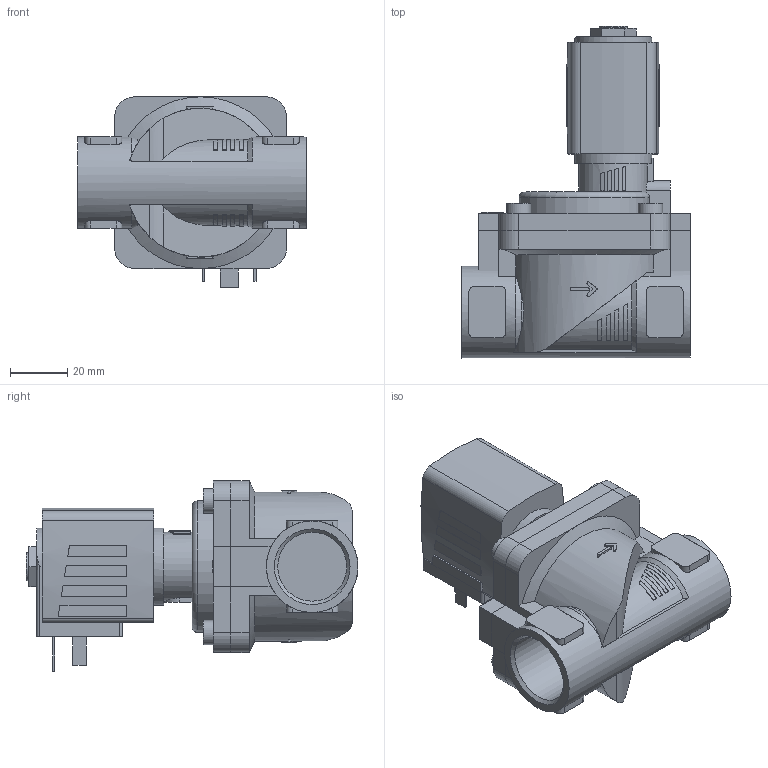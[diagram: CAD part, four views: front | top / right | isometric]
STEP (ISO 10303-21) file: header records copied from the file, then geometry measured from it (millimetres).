
FILE_DESCRIPTION(/* description */ ('STEP AP214'),/* implementation_level */ '2;1');
FILE_NAME(/* name */ '6281-370244-2_2-Way_Solenoid_Valve__Servo-assisted__General_Purpose',/* time_stamp */ '2024-08-20T21:13:12+02:00',/* author */ ('License CC BY-ND 4.0'),/* organization */ ('CADENAS'),/* preprocessor_version */ 'ST-DEVELOPER v19.3',/* originating_system */ 'PARTsolutions',/* authorisation */ ' ');
FILE_SCHEMA (('AUTOMOTIVE_DESIGN {1 0 10303 214 3 1 1}'));
Length unit declared in the file: millimetre
Products named in the file (4): 6281-370244-2/2-Way Solenoid Valve, Servo-assisted, General Purpose; 5281ev200VA2/2-Wege-Magnetventil mit Servomembran-Deckel   ; 6213-20G3/4VA-Gehaeuse-; AC10ex-5NA38-Plan-Coil
Assembly tree (3 placements, depth 2):
  6281-370244-2/2-Way Solenoid Valve, Servo-assisted, General Purpose
    5281ev200VA2/2-Wege-Magnetventil mit Servomembran-Deckel   
    6213-20G3/4VA-Gehaeuse-
    AC10ex-5NA38-Plan-Coil
Bounding box: 80 x 116 x 66.5 mm (x, y, z)
Volume: 198200.4 mm3; surface area: 42231.7 mm2
Topology: 3 solids, 3 shells, 341 faces, 862 edges, 568 vertices
Faces by surface type: plane 235, cylinder 88, cone 17, torus 1
Full cylindrical faces by diameter (mm): 2.013 x1, 8.5 x4, 9.74 x1, 24.117 x2, 27 x1, 32 x1
Entity records: 11500 total; most frequent: CARTESIAN_POINT 2015, DIRECTION 1710, ORIENTED_EDGE 1674, EDGE_CURVE 837, AXIS2_PLACEMENT_3D 602, VERTEX_POINT 559, LINE 506, VECTOR 506
